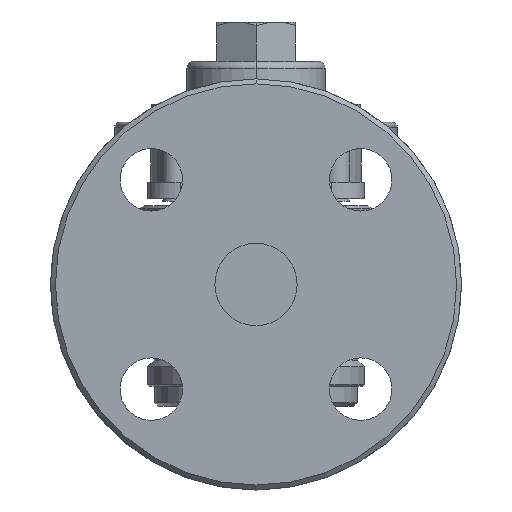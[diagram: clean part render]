
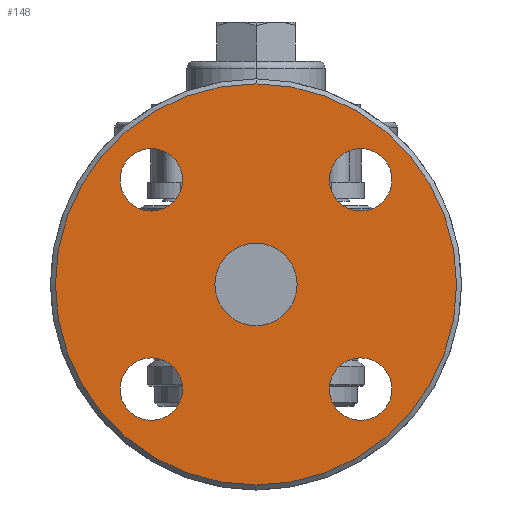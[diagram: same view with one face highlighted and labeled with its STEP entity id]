
A CAD part, left-side view. The second image highlights one B-rep face of the part: STEP entity #148.
In plain terms, the highlighted planar face has unit normal (-1, 0, 0).
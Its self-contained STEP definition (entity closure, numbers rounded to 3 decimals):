
#148=ADVANCED_FACE('',(#1351,#1352,#1353,#1354,#1355,#1356),#1350,.T.);
#1350=PLANE('',#2890);
#1351=FACE_OUTER_BOUND('',#2891,.T.);
#1352=FACE_BOUND('',#2892,.T.);
#1353=FACE_BOUND('',#2893,.T.);
#1354=FACE_BOUND('',#2894,.T.);
#1355=FACE_BOUND('',#2895,.T.);
#1356=FACE_BOUND('',#2896,.T.);
#2887=CARTESIAN_POINT('',(-80.,-115.655,-71.));
#2888=DIRECTION('',(-1.,0.,0.));
#2889=DIRECTION('',(0.,0.,1.));
#2890=AXIS2_PLACEMENT_3D('',#2887,#2888,#2889);
#2891=EDGE_LOOP('',(#4331,#4332));
#2892=EDGE_LOOP('',(#4333,#4334));
#2893=EDGE_LOOP('',(#4335,#4336));
#2894=EDGE_LOOP('',(#4337,#4338));
#2895=EDGE_LOOP('',(#4339,#4340));
#2896=EDGE_LOOP('',(#4341,#4342));
#4331=ORIENTED_EDGE('',*,*,#5120,.T.);
#4332=ORIENTED_EDGE('',*,*,#5121,.T.);
#4333=ORIENTED_EDGE('',*,*,#5122,.T.);
#4334=ORIENTED_EDGE('',*,*,#5123,.T.);
#4335=ORIENTED_EDGE('',*,*,#5124,.T.);
#4336=ORIENTED_EDGE('',*,*,#5125,.T.);
#4337=ORIENTED_EDGE('',*,*,#5126,.T.);
#4338=ORIENTED_EDGE('',*,*,#5127,.T.);
#4339=ORIENTED_EDGE('',*,*,#5128,.T.);
#4340=ORIENTED_EDGE('',*,*,#5129,.T.);
#4341=ORIENTED_EDGE('',*,*,#5130,.T.);
#4342=ORIENTED_EDGE('',*,*,#5131,.T.);
#5120=EDGE_CURVE('',#7613,#7614,#7615,.T.);
#5121=EDGE_CURVE('',#7614,#7613,#7621,.T.);
#5122=EDGE_CURVE('',#7627,#7628,#7629,.T.);
#5123=EDGE_CURVE('',#7628,#7627,#7635,.T.);
#5124=EDGE_CURVE('',#7641,#7642,#7643,.T.);
#5125=EDGE_CURVE('',#7642,#7641,#7649,.T.);
#5126=EDGE_CURVE('',#7655,#7656,#7657,.T.);
#5127=EDGE_CURVE('',#7656,#7655,#7663,.T.);
#5128=EDGE_CURVE('',#7669,#7670,#7671,.T.);
#5129=EDGE_CURVE('',#7670,#7669,#7677,.T.);
#5130=EDGE_CURVE('',#7683,#7684,#7685,.T.);
#5131=EDGE_CURVE('',#7684,#7683,#7691,.T.);
#7613=VERTEX_POINT('',#10201);
#7614=VERTEX_POINT('',#10202);
#7615=CIRCLE('',#10206,61.);
#7621=CIRCLE('',#10210,61.);
#7627=VERTEX_POINT('',#10211);
#7628=VERTEX_POINT('',#10212);
#7629=CIRCLE('',#10216,12.5);
#7635=CIRCLE('',#10220,12.5);
#7641=VERTEX_POINT('',#10221);
#7642=VERTEX_POINT('',#10222);
#7643=CIRCLE('',#10226,9.5);
#7649=CIRCLE('',#10230,9.5);
#7655=VERTEX_POINT('',#10231);
#7656=VERTEX_POINT('',#10232);
#7657=CIRCLE('',#10236,9.5);
#7663=CIRCLE('',#10240,9.5);
#7669=VERTEX_POINT('',#10241);
#7670=VERTEX_POINT('',#10242);
#7671=CIRCLE('',#10246,9.5);
#7677=CIRCLE('',#10250,9.5);
#7683=VERTEX_POINT('',#10251);
#7684=VERTEX_POINT('',#10252);
#7685=CIRCLE('',#10256,9.5);
#7691=CIRCLE('',#10260,9.5);
#10201=CARTESIAN_POINT('',(-80.,0.,-61.));
#10202=CARTESIAN_POINT('',(-80.,0.,61.));
#10203=CARTESIAN_POINT('',(-80.,0.,0.));
#10204=DIRECTION('',(-1.,0.,0.));
#10205=DIRECTION('',(0.,0.,-1.));
#10206=AXIS2_PLACEMENT_3D('',#10203,#10204,#10205);
#10207=CARTESIAN_POINT('',(-80.,0.,0.));
#10208=DIRECTION('',(-1.,0.,0.));
#10209=DIRECTION('',(0.,0.,-1.));
#10210=AXIS2_PLACEMENT_3D('',#10207,#10208,#10209);
#10211=CARTESIAN_POINT('',(-80.,0.,12.5));
#10212=CARTESIAN_POINT('',(-80.,0.,-12.5));
#10213=CARTESIAN_POINT('',(-80.,0.,0.));
#10214=DIRECTION('',(1.,0.,0.));
#10215=DIRECTION('',(0.,0.,1.));
#10216=AXIS2_PLACEMENT_3D('',#10213,#10214,#10215);
#10217=CARTESIAN_POINT('',(-80.,0.,0.));
#10218=DIRECTION('',(1.,0.,0.));
#10219=DIRECTION('',(0.,0.,1.));
#10220=AXIS2_PLACEMENT_3D('',#10217,#10218,#10219);
#10221=CARTESIAN_POINT('',(-80.,-31.82,-41.32));
#10222=CARTESIAN_POINT('',(-80.,-31.82,-22.32));
#10223=CARTESIAN_POINT('',(-80.,-31.82,-31.82));
#10224=DIRECTION('',(1.,0.,0.));
#10225=DIRECTION('',(0.,0.,-1.));
#10226=AXIS2_PLACEMENT_3D('',#10223,#10224,#10225);
#10227=CARTESIAN_POINT('',(-80.,-31.82,-31.82));
#10228=DIRECTION('',(1.,0.,0.));
#10229=DIRECTION('',(0.,0.,-1.));
#10230=AXIS2_PLACEMENT_3D('',#10227,#10228,#10229);
#10231=CARTESIAN_POINT('',(-80.,31.82,-41.32));
#10232=CARTESIAN_POINT('',(-80.,31.82,-22.32));
#10233=CARTESIAN_POINT('',(-80.,31.82,-31.82));
#10234=DIRECTION('',(1.,0.,0.));
#10235=DIRECTION('',(0.,0.,-1.));
#10236=AXIS2_PLACEMENT_3D('',#10233,#10234,#10235);
#10237=CARTESIAN_POINT('',(-80.,31.82,-31.82));
#10238=DIRECTION('',(1.,0.,0.));
#10239=DIRECTION('',(0.,0.,-1.));
#10240=AXIS2_PLACEMENT_3D('',#10237,#10238,#10239);
#10241=CARTESIAN_POINT('',(-80.,31.82,22.32));
#10242=CARTESIAN_POINT('',(-80.,31.82,41.32));
#10243=CARTESIAN_POINT('',(-80.,31.82,31.82));
#10244=DIRECTION('',(1.,0.,0.));
#10245=DIRECTION('',(0.,0.,-1.));
#10246=AXIS2_PLACEMENT_3D('',#10243,#10244,#10245);
#10247=CARTESIAN_POINT('',(-80.,31.82,31.82));
#10248=DIRECTION('',(1.,0.,0.));
#10249=DIRECTION('',(0.,0.,-1.));
#10250=AXIS2_PLACEMENT_3D('',#10247,#10248,#10249);
#10251=CARTESIAN_POINT('',(-80.,-31.82,22.32));
#10252=CARTESIAN_POINT('',(-80.,-31.82,41.32));
#10253=CARTESIAN_POINT('',(-80.,-31.82,31.82));
#10254=DIRECTION('',(1.,0.,0.));
#10255=DIRECTION('',(0.,0.,-1.));
#10256=AXIS2_PLACEMENT_3D('',#10253,#10254,#10255);
#10257=CARTESIAN_POINT('',(-80.,-31.82,31.82));
#10258=DIRECTION('',(1.,0.,0.));
#10259=DIRECTION('',(0.,0.,-1.));
#10260=AXIS2_PLACEMENT_3D('',#10257,#10258,#10259);
